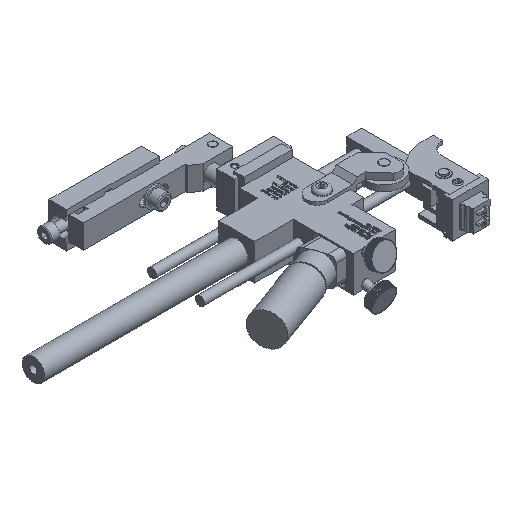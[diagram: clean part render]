
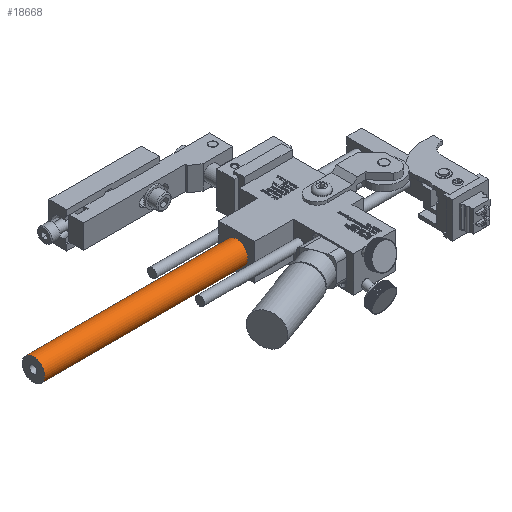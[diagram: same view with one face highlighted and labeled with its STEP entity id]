
A CAD part, isometric view. The second image highlights one B-rep face of the part: STEP entity #18668.
In plain terms, the highlighted cylindrical face has radius 5.969 mm (diameter 11.938 mm), a full revolution.
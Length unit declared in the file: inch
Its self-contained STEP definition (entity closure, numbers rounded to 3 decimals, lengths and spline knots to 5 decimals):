
#18641=CARTESIAN_POINT('',(-1.4995,0.8125,0.375));
#18642=DIRECTION('',(-1.0,0.,0.));
#18643=DIRECTION('',(0.0,0.0,-1.0));
#18644=AXIS2_PLACEMENT_3D('',#18641,#18642,#18643);
#18645=CYLINDRICAL_SURFACE('',#18644,0.235);
#18646=CARTESIAN_POINT('',(-5.7495,0.8125,0.61));
#18647=VERTEX_POINT('',#18646);
#18648=CARTESIAN_POINT('',(-5.7495,0.8125,0.375));
#18649=DIRECTION('',(1.0,0.0,0.0));
#18650=DIRECTION('',(0.0,0.0,-1.0));
#18651=AXIS2_PLACEMENT_3D('',#18648,#18649,#18650);
#18652=CIRCLE('',#18651,0.235);
#18653=EDGE_CURVE('',#18647,#18647,#18652,.T.);
#18654=ORIENTED_EDGE('',*,*,#18653,.T.);
#18655=EDGE_LOOP('',(#18654));
#18656=FACE_OUTER_BOUND('',#18655,.T.);
#18657=CARTESIAN_POINT('',(-1.4995,0.8125,0.61));
#18658=VERTEX_POINT('',#18657);
#18659=CARTESIAN_POINT('',(-1.4995,0.8125,0.375));
#18660=DIRECTION('',(1.0,0.0,0.0));
#18661=DIRECTION('',(0.0,0.0,-1.0));
#18662=AXIS2_PLACEMENT_3D('',#18659,#18660,#18661);
#18663=CIRCLE('',#18662,0.235);
#18664=EDGE_CURVE('',#18658,#18658,#18663,.T.);
#18665=ORIENTED_EDGE('',*,*,#18664,.F.);
#18666=EDGE_LOOP('',(#18665));
#18667=FACE_BOUND('',#18666,.T.);
#18668=ADVANCED_FACE('',(#18656,#18667),#18645,.T.);
